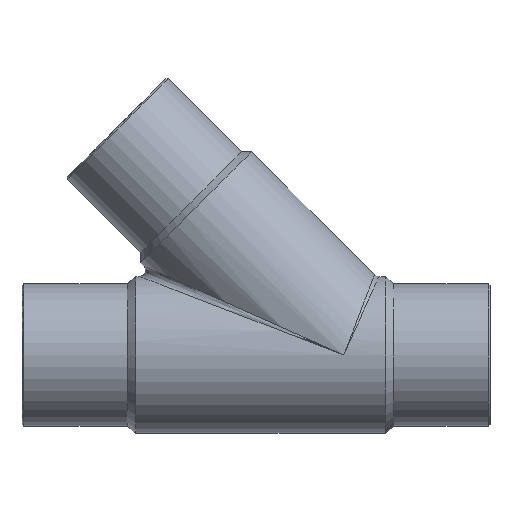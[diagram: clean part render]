
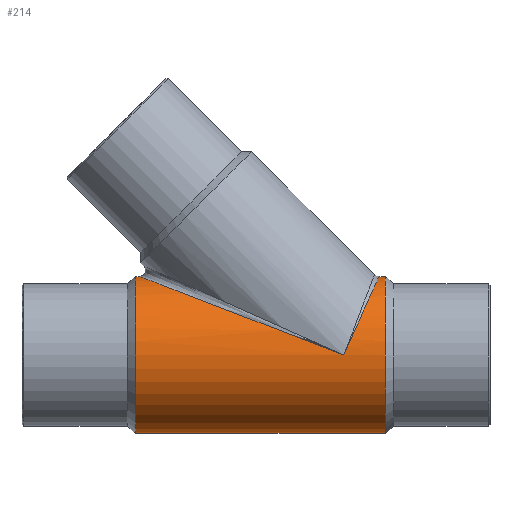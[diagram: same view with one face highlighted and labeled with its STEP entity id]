
A CAD part, front view. The second image highlights one B-rep face of the part: STEP entity #214.
In plain terms, the highlighted cylindrical face has radius 88 mm (diameter 176 mm), a full revolution.
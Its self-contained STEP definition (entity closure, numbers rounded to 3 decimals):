
#33=CIRCLE('',#250,88.);
#34=CIRCLE('',#253,88.);
#50=ORIENTED_EDGE('',*,*,#92,.T.);
#51=ORIENTED_EDGE('',*,*,#93,.T.);
#52=ORIENTED_EDGE('',*,*,#94,.T.);
#53=ORIENTED_EDGE('',*,*,#95,.F.);
#92=EDGE_CURVE('',#113,#113,#33,.T.);
#93=EDGE_CURVE('',#114,#115,#130,.T.);
#94=EDGE_CURVE('',#115,#114,#131,.T.);
#95=EDGE_CURVE('',#116,#116,#34,.T.);
#113=VERTEX_POINT('',#369);
#114=VERTEX_POINT('',#371);
#115=VERTEX_POINT('',#372);
#116=VERTEX_POINT('',#375);
#130=ELLIPSE('',#251,245.653,88.);
#131=ELLIPSE('',#252,96.397,88.);
#137=EDGE_LOOP('',(#50));
#138=EDGE_LOOP('',(#51,#52));
#139=EDGE_LOOP('',(#53));
#173=FACE_BOUND('',#137,.T.);
#174=FACE_BOUND('',#138,.T.);
#175=FACE_BOUND('',#139,.T.);
#207=CYLINDRICAL_SURFACE('',#249,88.);
#214=ADVANCED_FACE('',(#173,#174,#175),#207,.T.);
#249=AXIS2_PLACEMENT_3D('',#367,#293,#294);
#250=AXIS2_PLACEMENT_3D('',#368,#295,#296);
#251=AXIS2_PLACEMENT_3D('',#370,#297,#298);
#252=AXIS2_PLACEMENT_3D('',#373,#299,#300);
#253=AXIS2_PLACEMENT_3D('',#374,#301,#302);
#293=DIRECTION('',(-1.,0.,0.));
#294=DIRECTION('',(0.,0.,1.));
#295=DIRECTION('',(-1.,0.,0.));
#296=DIRECTION('',(0.,0.,1.));
#297=DIRECTION('',(-0.358,0.,-0.934));
#298=DIRECTION('',(-0.934,0.,0.358));
#299=DIRECTION('',(0.913,0.,-0.408));
#300=DIRECTION('',(0.408,0.,0.913));
#301=DIRECTION('',(-1.,0.,0.));
#302=DIRECTION('',(0.,0.,1.));
#367=CARTESIAN_POINT('',(-60.,0.,0.));
#368=CARTESIAN_POINT('',(145.,0.,0.));
#369=CARTESIAN_POINT('',(145.,0.,88.));
#370=CARTESIAN_POINT('',(98.549,0.,0.));
#371=CARTESIAN_POINT('',(98.549,-88.,0.));
#372=CARTESIAN_POINT('',(98.549,88.,0.));
#373=CARTESIAN_POINT('',(98.549,0.,0.));
#374=CARTESIAN_POINT('',(-135.,0.,0.));
#375=CARTESIAN_POINT('',(-135.,0.,88.));
